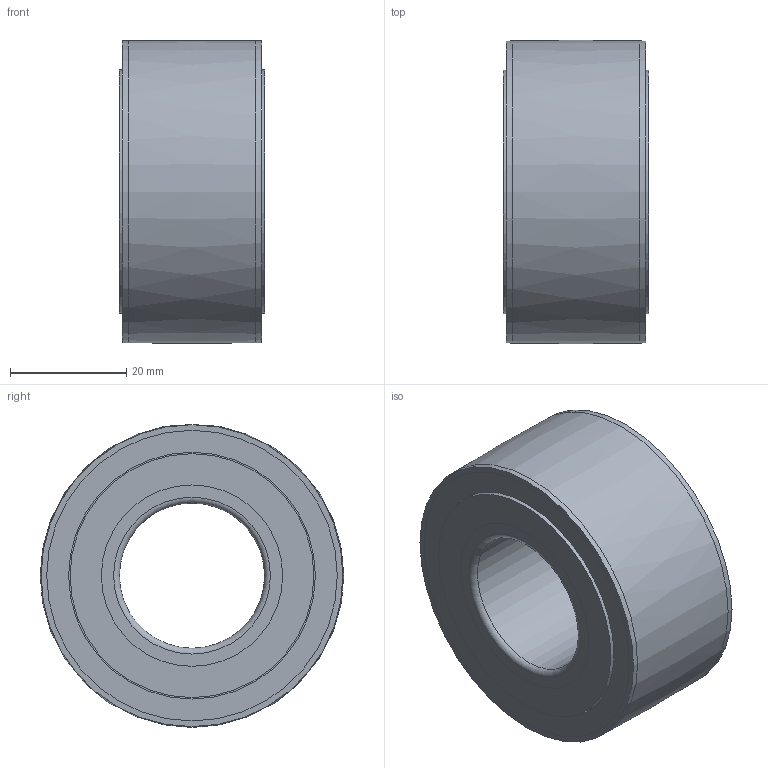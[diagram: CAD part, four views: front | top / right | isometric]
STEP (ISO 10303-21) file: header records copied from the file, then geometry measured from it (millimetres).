
FILE_DESCRIPTION(/* description */ (''),/* implementation_level */ '2;1');
FILE_NAME(/* name */ 'C:\Users\OUREHANEKD\NATV\NATV--\NATV25.stp',/* time_stamp */ '2018-06-05T13:12:09+02:00',/* author */ ('OUREHANEKD'),/* organization */ (''),/* preprocessor_version */ 'ST-DEVELOPER v16.13',/* originating_system */ 'Autodesk Inventor 2018',/* authorisation */ '');
FILE_SCHEMA (('AUTOMOTIVE_DESIGN { 1 0 10303 214 3 1 1 }'));
Length unit declared in the file: millimetre
Products named in the file (5): NATV25; NATV25-01; NATV25-needle; NATV25-shield; NATV25-02
Assembly tree (43 placements, depth 2):
  NATV25
    NATV25-01
    NATV25-needle  x40
    NATV25-shield
    NATV25-02
Bounding box: 25 x 52.29 x 52.17 mm (x, y, z)
Volume: 62055.8 mm3; surface area: 30730.1 mm2
Topology: 45 solids, 45 shells, 156 faces, 180 edges, 120 vertices
Faces by surface type: plane 96, cylinder 54, torus 4, bspline 2
Full cylindrical faces by diameter (mm): 1.728 x40, 25 x1, 31.24 x4, 33.64 x1, 37.096 x2, 42 x2, 42.5 x4
Entity records: 1375 total; most frequent: DIRECTION 254, CARTESIAN_POINT 229, AXIS2_PLACEMENT_3D 127, ORIENTED_EDGE 88, EDGE_LOOP 74, PRODUCT_DEFINITION_SHAPE 48, EDGE_CURVE 44, ITEM_DEFINED_TRANSFORMATION 43
